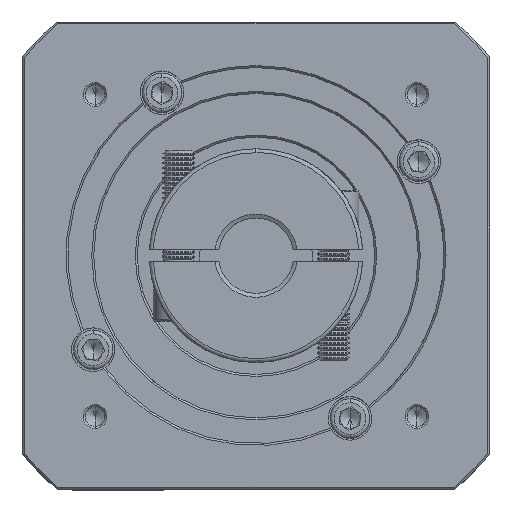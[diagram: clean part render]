
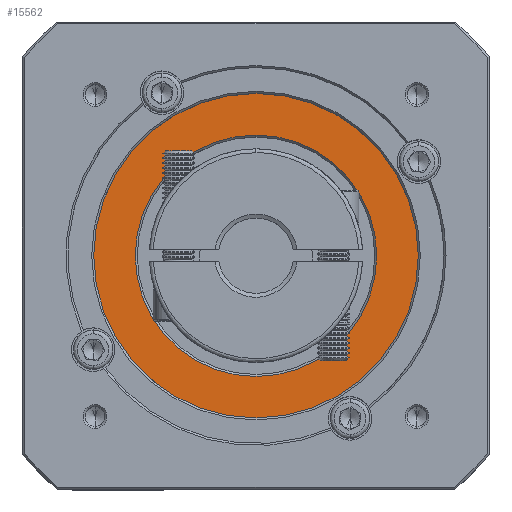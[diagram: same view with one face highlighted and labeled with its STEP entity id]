
A CAD part, top view. The second image highlights one B-rep face of the part: STEP entity #15562.
In plain terms, the highlighted planar face has unit normal (0, 0, 1).
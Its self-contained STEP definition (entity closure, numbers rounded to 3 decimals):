
#971 = AXIS2_PLACEMENT_3D ( 'NONE', #79819, #102657, #10681 ) ;
#2035 = DIRECTION ( 'NONE',  ( 0., 0., 1. ) ) ;
#3596 = EDGE_CURVE ( 'NONE', #114581, #70028, #110224, .T. ) ;
#10681 = DIRECTION ( 'NONE',  ( 0., 1., 0. ) ) ;
#11445 = VERTEX_POINT ( 'NONE', #90815 ) ;
#13111 = AXIS2_PLACEMENT_3D ( 'NONE', #32910, #2035, #115846 ) ;
#15562 = ADVANCED_FACE ( 'NONE', ( #71005, #18082 ), #79554, .T. ) ;
#18082 = FACE_BOUND ( 'NONE', #101995, .T. ) ;
#19779 = CARTESIAN_POINT ( 'NONE',  ( -32.033, -2.282, 219.502 ) ) ;
#24654 = EDGE_CURVE ( 'NONE', #70028, #114581, #100304, .T. ) ;
#32910 = CARTESIAN_POINT ( 'NONE',  ( -32.033, -2.282, 219.502 ) ) ;
#33748 = CARTESIAN_POINT ( 'NONE',  ( -32.033, -43.282, 219.502 ) ) ;
#38717 = AXIS2_PLACEMENT_3D ( 'NONE', #19779, #83463, #72735 ) ;
#40086 = DIRECTION ( 'NONE',  ( 0., 0., 1. ) ) ;
#43774 = ORIENTED_EDGE ( 'NONE', *, *, #51845, .T. ) ;
#51845 = EDGE_CURVE ( 'NONE', #11445, #113455, #129502, .T. ) ;
#52088 = CARTESIAN_POINT ( 'NONE',  ( -32.033, 38.718, 219.502 ) ) ;
#61070 = CARTESIAN_POINT ( 'NONE',  ( -32.033, -2.282, 219.502 ) ) ;
#70028 = VERTEX_POINT ( 'NONE', #52088 ) ;
#71005 = FACE_OUTER_BOUND ( 'NONE', #87411, .T. ) ;
#72735 = DIRECTION ( 'NONE',  ( 0., 1., 0. ) ) ;
#75686 = AXIS2_PLACEMENT_3D ( 'NONE', #61070, #40086, #132432 ) ;
#79547 = CIRCLE ( 'NONE', #971, 30.5 ) ;
#79554 = PLANE ( 'NONE',  #132363 ) ;
#79819 = CARTESIAN_POINT ( 'NONE',  ( -32.033, -2.282, 219.502 ) ) ;
#83463 = DIRECTION ( 'NONE',  ( 0., 0., -1. ) ) ;
#85251 = ORIENTED_EDGE ( 'NONE', *, *, #24654, .T. ) ;
#87411 = EDGE_LOOP ( 'NONE', ( #85251, #119803 ) ) ;
#90815 = CARTESIAN_POINT ( 'NONE',  ( -32.033, 28.218, 219.502 ) ) ;
#92904 = ORIENTED_EDGE ( 'NONE', *, *, #130310, .T. ) ;
#100223 = DIRECTION ( 'NONE',  ( 0., 0., 1. ) ) ;
#100304 = CIRCLE ( 'NONE', #13111, 41. ) ;
#100876 = CARTESIAN_POINT ( 'NONE',  ( -32.033, -32.782, 219.502 ) ) ;
#101995 = EDGE_LOOP ( 'NONE', ( #43774, #92904 ) ) ;
#102657 = DIRECTION ( 'NONE',  ( 0., 0., -1. ) ) ;
#110224 = CIRCLE ( 'NONE', #75686, 41. ) ;
#113455 = VERTEX_POINT ( 'NONE', #100876 ) ;
#114581 = VERTEX_POINT ( 'NONE', #33748 ) ;
#115846 = DIRECTION ( 'NONE',  ( 0., 1., 0. ) ) ;
#119803 = ORIENTED_EDGE ( 'NONE', *, *, #3596, .T. ) ;
#121632 = CARTESIAN_POINT ( 'NONE',  ( -32.033, -2.282, 219.502 ) ) ;
#129502 = CIRCLE ( 'NONE', #38717, 30.5 ) ;
#130310 = EDGE_CURVE ( 'NONE', #113455, #11445, #79547, .T. ) ;
#132363 = AXIS2_PLACEMENT_3D ( 'NONE', #121632, #100223, #132405 ) ;
#132405 = DIRECTION ( 'NONE',  ( 0., 1., 0. ) ) ;
#132432 = DIRECTION ( 'NONE',  ( 0., 1., 0. ) ) ;
